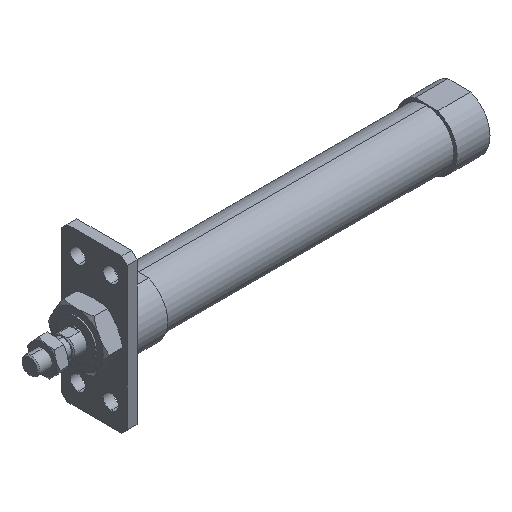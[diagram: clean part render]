
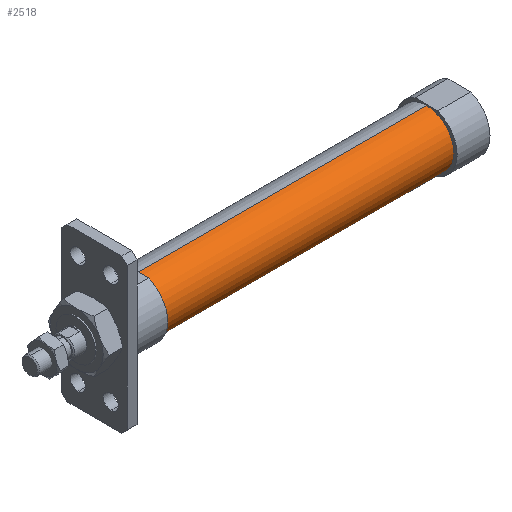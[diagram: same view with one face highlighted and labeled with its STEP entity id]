
A CAD part, isometric view. The second image highlights one B-rep face of the part: STEP entity #2518.
In plain terms, the highlighted cylindrical face has radius 12.5 mm (diameter 25 mm), a partial arc.
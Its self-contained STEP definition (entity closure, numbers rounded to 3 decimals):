
#195 = LINE ( 'NONE', #1205, #3015 ) ;
#229 = VERTEX_POINT ( 'NONE', #3636 ) ;
#248 = EDGE_CURVE ( 'NONE', #417, #229, #1682, .T. ) ;
#417 = VERTEX_POINT ( 'NONE', #3814 ) ;
#419 = CIRCLE ( 'NONE', #1242, 12.5 ) ;
#754 = VERTEX_POINT ( 'NONE', #1030 ) ;
#811 = CARTESIAN_POINT ( 'NONE',  ( -6.469, 0., 12.5 ) ) ;
#960 = DIRECTION ( 'NONE',  ( -1., 0., 0. ) ) ;
#1030 = CARTESIAN_POINT ( 'NONE',  ( 49., 0., -12.5 ) ) ;
#1070 = CARTESIAN_POINT ( 'NONE',  ( 181., 0., 0. ) ) ;
#1205 = CARTESIAN_POINT ( 'NONE',  ( -6.469, 0., -12.5 ) ) ;
#1212 = DIRECTION ( 'NONE',  ( 0., 0., 1. ) ) ;
#1242 = AXIS2_PLACEMENT_3D ( 'NONE', #2725, #960, #2155 ) ;
#1355 = ORIENTED_EDGE ( 'NONE', *, *, #3061, .F. ) ;
#1447 = CARTESIAN_POINT ( 'NONE',  ( 49., 0., 12.5 ) ) ;
#1497 = CARTESIAN_POINT ( 'NONE',  ( -6.469, 0., 0. ) ) ;
#1501 = CYLINDRICAL_SURFACE ( 'NONE', #2795, 12.5 ) ;
#1639 = VECTOR ( 'NONE', #2596, 1000. ) ;
#1682 = CIRCLE ( 'NONE', #1944, 12.5 ) ;
#1703 = EDGE_CURVE ( 'NONE', #417, #754, #195, .T. ) ;
#1836 = EDGE_CURVE ( 'NONE', #229, #3583, #2969, .T. ) ;
#1940 = DIRECTION ( 'NONE',  ( -1., 0., 0. ) ) ;
#1944 = AXIS2_PLACEMENT_3D ( 'NONE', #1070, #1940, #3387 ) ;
#2094 = DIRECTION ( 'NONE',  ( -1., 0., 0. ) ) ;
#2155 = DIRECTION ( 'NONE',  ( 0., 0., 1. ) ) ;
#2367 = DIRECTION ( 'NONE',  ( -1., 0., 0. ) ) ;
#2518 = ADVANCED_FACE ( 'NONE', ( #3286 ), #1501, .T. ) ;
#2596 = DIRECTION ( 'NONE',  ( -1., 0., 0. ) ) ;
#2716 = ORIENTED_EDGE ( 'NONE', *, *, #1836, .T. ) ;
#2725 = CARTESIAN_POINT ( 'NONE',  ( 49., 0., 0. ) ) ;
#2795 = AXIS2_PLACEMENT_3D ( 'NONE', #1497, #2094, #1212 ) ;
#2899 = EDGE_LOOP ( 'NONE', ( #3161, #3528, #2716, #1355 ) ) ;
#2969 = LINE ( 'NONE', #811, #1639 ) ;
#3015 = VECTOR ( 'NONE', #2367, 1000. ) ;
#3061 = EDGE_CURVE ( 'NONE', #754, #3583, #419, .T. ) ;
#3161 = ORIENTED_EDGE ( 'NONE', *, *, #1703, .F. ) ;
#3286 = FACE_OUTER_BOUND ( 'NONE', #2899, .T. ) ;
#3387 = DIRECTION ( 'NONE',  ( 0., 0., 1. ) ) ;
#3528 = ORIENTED_EDGE ( 'NONE', *, *, #248, .T. ) ;
#3583 = VERTEX_POINT ( 'NONE', #1447 ) ;
#3636 = CARTESIAN_POINT ( 'NONE',  ( 181., 0., 12.5 ) ) ;
#3814 = CARTESIAN_POINT ( 'NONE',  ( 181., 0., -12.5 ) ) ;
